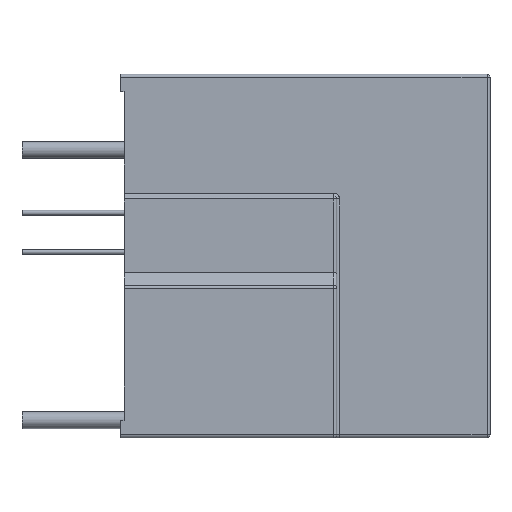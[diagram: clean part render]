
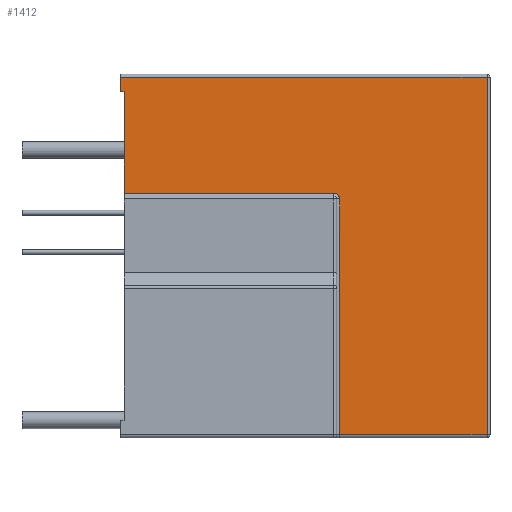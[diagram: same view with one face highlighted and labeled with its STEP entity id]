
A CAD part, left-side view. The second image highlights one B-rep face of the part: STEP entity #1412.
In plain terms, the highlighted planar face has unit normal (-1, 0, 0).
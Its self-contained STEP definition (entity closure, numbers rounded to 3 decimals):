
#140=DIRECTION('',(0.,0.,1.));
#141=VECTOR('',#140,1.5);
#142=CARTESIAN_POINT('',(-8.6,37.6,-1.8));
#143=LINE('',#142,#141);
#208=DIRECTION('',(0.,0.,1.));
#209=VECTOR('',#208,10.3);
#210=CARTESIAN_POINT('',(-8.6,37.2,-12.1));
#211=LINE('',#210,#209);
#390=DIRECTION('',(0.,1.,0.));
#391=VECTOR('',#390,21.3);
#392=CARTESIAN_POINT('',(-8.6,15.9,-12.1));
#393=LINE('',#392,#391);
#394=DIRECTION('',(0.,1.,0.));
#395=VECTOR('',#394,0.4);
#396=CARTESIAN_POINT('',(-8.6,37.2,-1.8));
#397=LINE('',#396,#395);
#398=DIRECTION('',(0.,1.,0.));
#399=VECTOR('',#398,37.3);
#400=CARTESIAN_POINT('',(-8.6,0.3,-0.3));
#401=LINE('',#400,#399);
#402=DIRECTION('',(0.,0.,1.));
#403=VECTOR('',#402,36.4);
#404=CARTESIAN_POINT('',(-8.6,0.3,-36.7));
#405=LINE('',#404,#403);
#406=DIRECTION('',(0.,1.,0.));
#407=VECTOR('',#406,15.);
#408=CARTESIAN_POINT('',(-8.6,0.3,-36.7));
#409=LINE('',#408,#407);
#410=DIRECTION('',(0.,0.,1.));
#411=VECTOR('',#410,24.);
#412=CARTESIAN_POINT('',(-8.6,15.3,-36.7));
#413=LINE('',#412,#411);
#414=CARTESIAN_POINT('',(-8.6,15.9,-12.7));
#415=DIRECTION('',(1.,0.,0.));
#416=DIRECTION('',(0.,0.,1.));
#417=AXIS2_PLACEMENT_3D('',#414,#415,#416);
#783=CARTESIAN_POINT('',(-8.6,37.6,-1.8));
#784=VERTEX_POINT('',#783);
#811=CARTESIAN_POINT('',(-8.6,37.2,-1.8));
#812=VERTEX_POINT('',#811);
#871=CARTESIAN_POINT('',(-8.6,15.9,-12.1));
#872=CARTESIAN_POINT('',(-8.6,37.2,-12.1));
#873=VERTEX_POINT('',#871);
#874=VERTEX_POINT('',#872);
#923=CARTESIAN_POINT('',(-8.6,37.6,-0.3));
#925=VERTEX_POINT('',#923);
#927=CARTESIAN_POINT('',(-8.6,0.3,-0.3));
#928=VERTEX_POINT('',#927);
#929=CARTESIAN_POINT('',(-8.6,0.3,-36.7));
#930=VERTEX_POINT('',#929);
#931=CARTESIAN_POINT('',(-8.6,15.3,-36.7));
#932=VERTEX_POINT('',#931);
#951=CARTESIAN_POINT('',(-8.6,15.3,-12.7));
#952=VERTEX_POINT('',#951);
#1389=CARTESIAN_POINT('',(-8.6,0.,-12.4));
#1390=DIRECTION('',(-1.,0.,0.));
#1391=DIRECTION('',(0.,0.,1.));
#1392=AXIS2_PLACEMENT_3D('',#1389,#1390,#1391);
#1393=PLANE('',#1392);
#1395=ORIENTED_EDGE('',*,*,#1394,.T.);
#1396=ORIENTED_EDGE('',*,*,#1156,.T.);
#1398=ORIENTED_EDGE('',*,*,#1397,.T.);
#1399=ORIENTED_EDGE('',*,*,#1122,.T.);
#1401=ORIENTED_EDGE('',*,*,#1400,.F.);
#1403=ORIENTED_EDGE('',*,*,#1402,.F.);
#1405=ORIENTED_EDGE('',*,*,#1404,.T.);
#1407=ORIENTED_EDGE('',*,*,#1406,.T.);
#1409=ORIENTED_EDGE('',*,*,#1408,.F.);
#1410=EDGE_LOOP('',(#1395,#1396,#1398,#1399,#1401,#1403,#1405,#1407,#1409));
#1411=FACE_OUTER_BOUND('',#1410,.F.);
#1412=ADVANCED_FACE('',(#1411),#1393,.T.);
#418=CIRCLE('',#417,0.6);
#1122=EDGE_CURVE('',#784,#925,#143,.T.);
#1156=EDGE_CURVE('',#874,#812,#211,.T.);
#1394=EDGE_CURVE('',#873,#874,#393,.T.);
#1397=EDGE_CURVE('',#812,#784,#397,.T.);
#1400=EDGE_CURVE('',#928,#925,#401,.T.);
#1402=EDGE_CURVE('',#930,#928,#405,.T.);
#1404=EDGE_CURVE('',#930,#932,#409,.T.);
#1406=EDGE_CURVE('',#932,#952,#413,.T.);
#1408=EDGE_CURVE('',#873,#952,#418,.T.);
